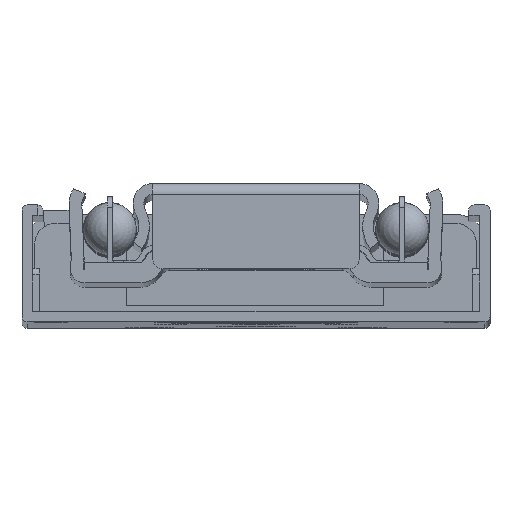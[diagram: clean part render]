
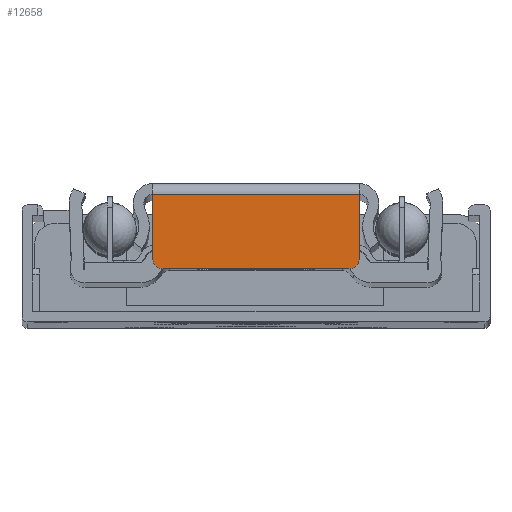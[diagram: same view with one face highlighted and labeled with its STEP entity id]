
A CAD part, top view. The second image highlights one B-rep face of the part: STEP entity #12658.
In plain terms, the highlighted planar face has unit normal (0, 0, 1).
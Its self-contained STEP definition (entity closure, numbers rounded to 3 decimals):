
#961=CIRCLE('',#13834,1.);
#962=CIRCLE('',#13835,1.);
#1593=FACE_OUTER_BOUND('',#2338,.T.);
#2338=EDGE_LOOP('',(#11326,#11327,#11328,#11329,#11330,#11331));
#3592=LINE('',#21175,#4870);
#3593=LINE('',#21178,#4871);
#3594=LINE('',#21182,#4872);
#3595=LINE('',#21185,#4873);
#4870=VECTOR('',#17286,10.);
#4871=VECTOR('',#17289,10.);
#4872=VECTOR('',#17292,10.);
#4873=VECTOR('',#17295,10.);
#6081=VERTEX_POINT('',#21168);
#6084=VERTEX_POINT('',#21173);
#6085=VERTEX_POINT('',#21177);
#6086=VERTEX_POINT('',#21179);
#6087=VERTEX_POINT('',#21181);
#6088=VERTEX_POINT('',#21183);
#7874=EDGE_CURVE('',#6084,#6081,#3592,.T.);
#7875=EDGE_CURVE('',#6084,#6085,#3593,.T.);
#7876=EDGE_CURVE('',#6086,#6085,#961,.T.);
#7877=EDGE_CURVE('',#6086,#6087,#3594,.T.);
#7878=EDGE_CURVE('',#6088,#6087,#962,.T.);
#7879=EDGE_CURVE('',#6081,#6088,#3595,.T.);
#11326=ORIENTED_EDGE('',*,*,#7874,.F.);
#11327=ORIENTED_EDGE('',*,*,#7875,.T.);
#11328=ORIENTED_EDGE('',*,*,#7876,.F.);
#11329=ORIENTED_EDGE('',*,*,#7877,.T.);
#11330=ORIENTED_EDGE('',*,*,#7878,.F.);
#11331=ORIENTED_EDGE('',*,*,#7879,.F.);
#12043=PLANE('',#13833);
#12658=ADVANCED_FACE('',(#1593),#12043,.T.);
#13833=AXIS2_PLACEMENT_3D('',#21176,#17287,#17288);
#13834=AXIS2_PLACEMENT_3D('',#21180,#17290,#17291);
#13835=AXIS2_PLACEMENT_3D('',#21184,#17293,#17294);
#17286=DIRECTION('',(-1.,0.,0.));
#17287=DIRECTION('center_axis',(0.,0.,1.));
#17288=DIRECTION('ref_axis',(1.,0.,0.));
#17289=DIRECTION('',(0.,1.,0.));
#17290=DIRECTION('center_axis',(0.,0.,-1.));
#17291=DIRECTION('ref_axis',(0.707,0.707,0.));
#17292=DIRECTION('',(-1.,0.,0.));
#17293=DIRECTION('center_axis',(0.,0.,-1.));
#17294=DIRECTION('ref_axis',(-0.707,0.707,0.));
#17295=DIRECTION('',(0.,1.,0.));
#21168=CARTESIAN_POINT('',(4.892,-4.95,349.));
#21173=CARTESIAN_POINT('',(24.354,-4.95,349.));
#21175=CARTESIAN_POINT('',(19.501,-4.95,349.));
#21176=CARTESIAN_POINT('Origin',(24.354,-5.95,349.));
#21177=CARTESIAN_POINT('',(24.354,1.05,349.));
#21178=CARTESIAN_POINT('',(24.354,-5.95,349.));
#21179=CARTESIAN_POINT('',(23.354,2.05,349.));
#21180=CARTESIAN_POINT('Origin',(23.354,1.05,349.));
#21181=CARTESIAN_POINT('',(5.892,2.05,349.));
#21182=CARTESIAN_POINT('',(24.354,2.05,349.));
#21183=CARTESIAN_POINT('',(4.892,1.05,349.));
#21184=CARTESIAN_POINT('Origin',(5.892,1.05,349.));
#21185=CARTESIAN_POINT('',(4.892,-5.95,349.));
